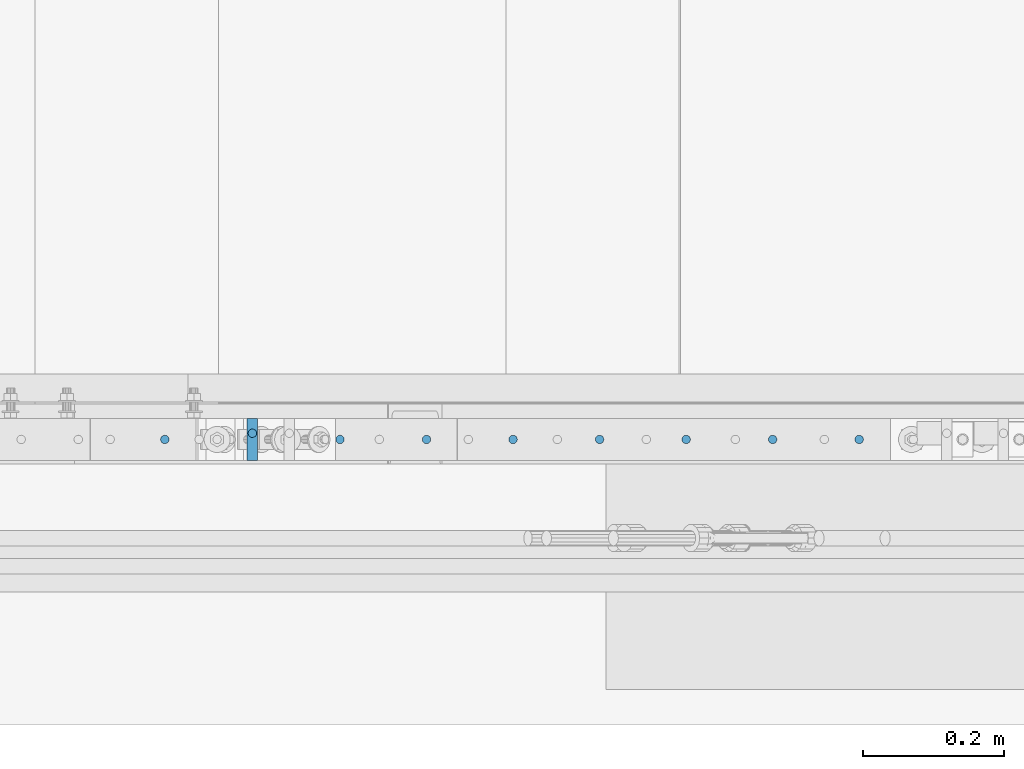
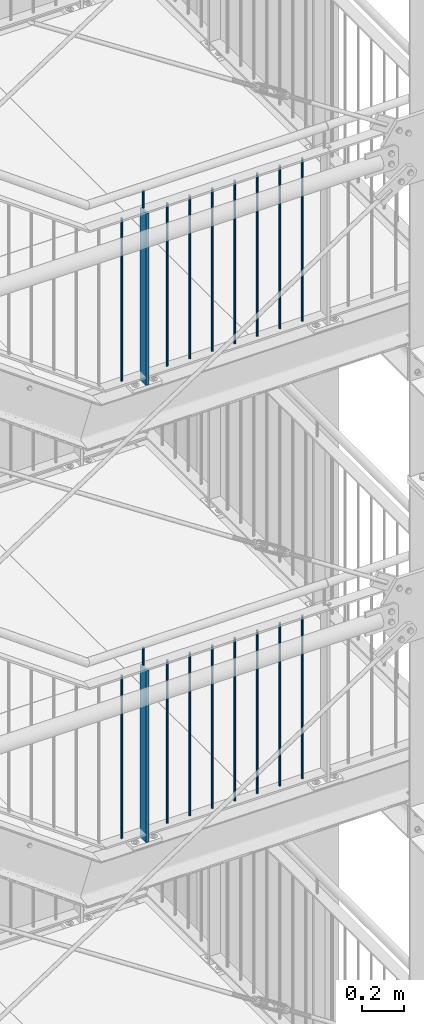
# One storey, part 84 of 825: 20 columns.
"""IFC2X3 building model written with IfcOpenShell, lengths in millimetres."""

from ifc_helpers import new_model, entity, si_unit, converted_unit, frame, origin, origin_with_axes, origin_2d, place, context, project, spatial, rectangle, circle, extrude, clip, halfspace, material, element, save


model = new_model("IFC2X3")

# Units and contexts
model_context = context("Model", 3, precision=1e-09, world=origin_with_axes())
ifc_project = project(units=[si_unit("LENGTHUNIT", "METRE", prefix="MILLI"), si_unit("AREAUNIT", "SQUARE_METRE"), si_unit("VOLUMEUNIT", "CUBIC_METRE"), converted_unit("PLANEANGLEUNIT", "DEGREE", entity("IfcPlaneAngleMeasure", 0.01745329), si_unit("PLANEANGLEUNIT", "RADIAN"), dimensions=[0, 0, 0, 0, 0, 0, 0])], contexts=[model_context])

# Site, building, storey
site_placement = place(None, origin_with_axes())
site = spatial("IfcSite", under=ifc_project, at=site_placement, Name="Cnopf'sche Kinderklinik", CompositionType="ELEMENT")
building_placement = place(site_placement, origin_with_axes())
building = spatial("IfcBuilding", under=site, at=building_placement, Name="Struktur 1", CompositionType="ELEMENT")
storey_placement = place(building_placement, origin_with_axes())
storey = spatial("IfcBuildingStorey", under=building, at=storey_placement, Name="Default Storey", CompositionType="ELEMENT", Elevation=0.0)

# Columns
ifc_material = material(Name="S235JR")
column_1_placement = place(None, frame((7364.792117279, 4526.736971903, 12305.223292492), z_axis=(0.0, 0.0, 1.0), x_axis=(-1.0, 0.0, 0.0)))
element("IfcColumn", 1, at=column_1_placement, inside=storey, material=ifc_material, Name="Railing_Post_Landing#9", ObjectType="Railing_Post_Landing#9", context=model_context, shape_type="Clipping", body=[
    clip(clip(extrude(rectangle(XDim=15.0, YDim=60.0, at=origin_2d()), origin(), (0.0, 0.0, -1.0), 1070.646584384), halfspace(frame((7364.792117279, 4526.736971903, -1019.722292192), z_axis=(0.0, 0.0, 1.0), x_axis=(-1.0, 0.0, 0.0)), True)), halfspace(frame((7364.792117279, 4526.736971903, -30.924292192), z_axis=(0.0, 0.0, -1.0), x_axis=(1.0, 0.0, 0.0)), True)),
])
column_2_placement = place(None, frame((8225.542260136, 4526.736971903, 12287.785281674), z_axis=(0.0, 0.0, 1.0), x_axis=(-1.0, 0.0, 0.0)))
element("IfcColumn", 2, at=column_2_placement, inside=storey, material=ifc_material, Name="Railing_Picket_Landing#55", ObjectType="Railing_Picket_Landing#55", context=model_context, shape_type="Clipping", body=[
    clip(clip(extrude(circle(Radius=6.0, at=origin_2d()), origin(), (0.0, 0.0, -1.0), 965.770562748), halfspace(frame((8225.542260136, 4526.736971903, -13.486281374), z_axis=(0.0, 0.0, -1.0), x_axis=(1.0, 0.0, 0.0)), True)), halfspace(frame((8225.542260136, 4526.736971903, -952.284281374), z_axis=(0.0, 0.0, 1.0), x_axis=(-1.0, 0.0, 0.0)), True)),
])
column_3_placement = place(None, frame((8102.792236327, 4526.736971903, 12287.785281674), z_axis=(0.0, 0.0, 1.0), x_axis=(-1.0, 0.0, 0.0)))
element("IfcColumn", 3, at=column_3_placement, inside=storey, material=ifc_material, Name="Railing_Picket_Landing#56", ObjectType="Railing_Picket_Landing#56", context=model_context, shape_type="Clipping", body=[
    clip(clip(extrude(circle(Radius=6.0, at=origin_2d()), origin(), (0.0, 0.0, -1.0), 965.770562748), halfspace(frame((8102.792236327, 4526.736971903, -13.486281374), z_axis=(0.0, 0.0, -1.0), x_axis=(1.0, 0.0, 0.0)), True)), halfspace(frame((8102.792236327, 4526.736971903, -952.284281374), z_axis=(0.0, 0.0, 1.0), x_axis=(-1.0, 0.0, 0.0)), True)),
])
column_4_placement = place(None, frame((7980.042212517, 4526.736971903, 12287.785281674), z_axis=(0.0, 0.0, 1.0), x_axis=(-1.0, 0.0, 0.0)))
element("IfcColumn", 4, at=column_4_placement, inside=storey, material=ifc_material, Name="Railing_Picket_Landing#57", ObjectType="Railing_Picket_Landing#57", context=model_context, shape_type="Clipping", body=[
    clip(clip(extrude(circle(Radius=6.0, at=origin_2d()), origin(), (0.0, 0.0, -1.0), 965.770562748), halfspace(frame((7980.042212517, 4526.736971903, -13.486281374), z_axis=(0.0, 0.0, -1.0), x_axis=(1.0, 0.0, 0.0)), True)), halfspace(frame((7980.042212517, 4526.736971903, -952.284281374), z_axis=(0.0, 0.0, 1.0), x_axis=(-1.0, 0.0, 0.0)), True)),
])
column_5_placement = place(None, frame((7857.292188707, 4526.736971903, 12287.785281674), z_axis=(0.0, 0.0, 1.0), x_axis=(-1.0, 0.0, 0.0)))
element("IfcColumn", 5, at=column_5_placement, inside=storey, material=ifc_material, Name="Railing_Picket_Landing#58", ObjectType="Railing_Picket_Landing#58", context=model_context, shape_type="Clipping", body=[
    clip(clip(extrude(circle(Radius=6.0, at=origin_2d()), origin(), (0.0, 0.0, -1.0), 965.770562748), halfspace(frame((7857.292188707, 4526.736971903, -13.486281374), z_axis=(0.0, 0.0, -1.0), x_axis=(1.0, 0.0, 0.0)), True)), halfspace(frame((7857.292188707, 4526.736971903, -952.284281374), z_axis=(0.0, 0.0, 1.0), x_axis=(-1.0, 0.0, 0.0)), True)),
])
column_6_placement = place(None, frame((7734.542164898, 4526.736971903, 12287.785281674), z_axis=(0.0, 0.0, 1.0), x_axis=(-1.0, 0.0, 0.0)))
element("IfcColumn", 6, at=column_6_placement, inside=storey, material=ifc_material, Name="Railing_Picket_Landing#59", ObjectType="Railing_Picket_Landing#59", context=model_context, shape_type="Clipping", body=[
    clip(clip(extrude(circle(Radius=6.0, at=origin_2d()), origin(), (0.0, 0.0, -1.0), 965.770562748), halfspace(frame((7734.542164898, 4526.736971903, -13.486281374), z_axis=(0.0, 0.0, -1.0), x_axis=(1.0, 0.0, 0.0)), True)), halfspace(frame((7734.542164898, 4526.736971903, -952.284281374), z_axis=(0.0, 0.0, 1.0), x_axis=(-1.0, 0.0, 0.0)), True)),
])
column_7_placement = place(None, frame((7611.792141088, 4526.736971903, 12287.785281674), z_axis=(0.0, 0.0, 1.0), x_axis=(-1.0, 0.0, 0.0)))
element("IfcColumn", 7, at=column_7_placement, inside=storey, material=ifc_material, Name="Railing_Picket_Landing#60", ObjectType="Railing_Picket_Landing#60", context=model_context, shape_type="Clipping", body=[
    clip(clip(extrude(circle(Radius=6.0, at=origin_2d()), origin(), (0.0, 0.0, -1.0), 965.770562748), halfspace(frame((7611.792141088, 4526.736971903, -13.486281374), z_axis=(0.0, 0.0, -1.0), x_axis=(1.0, 0.0, 0.0)), True)), halfspace(frame((7611.792141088, 4526.736971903, -952.284281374), z_axis=(0.0, 0.0, 1.0), x_axis=(-1.0, 0.0, 0.0)), True)),
])
column_8_placement = place(None, frame((7489.042117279, 4526.736971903, 12287.785281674), z_axis=(0.0, 0.0, 1.0), x_axis=(-1.0, 0.0, 0.0)))
element("IfcColumn", 8, at=column_8_placement, inside=storey, material=ifc_material, Name="Railing_Picket_Landing#61", ObjectType="Railing_Picket_Landing#61", context=model_context, shape_type="Clipping", body=[
    clip(clip(extrude(circle(Radius=6.0, at=origin_2d()), origin(), (0.0, 0.0, -1.0), 965.770562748), halfspace(frame((7489.042117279, 4526.736971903, -13.486281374), z_axis=(0.0, 0.0, -1.0), x_axis=(1.0, 0.0, 0.0)), True)), halfspace(frame((7489.042117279, 4526.736971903, -952.284281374), z_axis=(0.0, 0.0, 1.0), x_axis=(-1.0, 0.0, 0.0)), True)),
])
column_9_placement = place(None, frame((7240.542117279, 4526.736971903, 12287.785281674), z_axis=(0.0, 0.0, 1.0), x_axis=(-1.0, 0.0, 0.0)))
element("IfcColumn", 9, at=column_9_placement, inside=storey, material=ifc_material, Name="Railing_Picket_Landing#62", ObjectType="Railing_Picket_Landing#62", context=model_context, shape_type="Clipping", body=[
    clip(clip(extrude(circle(Radius=6.0, at=origin_2d()), origin(), (0.0, 0.0, -1.0), 965.770562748), halfspace(frame((7240.542117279, 4526.736971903, -13.486281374), z_axis=(0.0, 0.0, -1.0), x_axis=(1.0, 0.0, 0.0)), True)), halfspace(frame((7240.542117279, 4526.736971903, -952.284281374), z_axis=(0.0, 0.0, 1.0), x_axis=(-1.0, 0.0, 0.0)), True)),
])
column_10_placement = place(None, frame((7364.792117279, 4535.536971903, 12392.785281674), z_axis=(0.0, 0.0, 1.0), x_axis=(0.0, 1.0, 0.0)))
element("IfcColumn", 10, at=column_10_placement, inside=storey, material=ifc_material, Name="Bar#9", ObjectType="Bar#9", context=model_context, shape_type="Clipping", body=[
    clip(clip(extrude(circle(Radius=6.0, at=origin_2d()), origin(), (0.0, 0.0, -1.0), 116.970562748), halfspace(frame((-4535.536971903, 7364.792117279, -8.486281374), z_axis=(0.0, 0.0, -1.0), x_axis=(0.0, 1.0, 0.0)), True)), halfspace(frame((-4535.536971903, 7364.792117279, -108.484281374), z_axis=(0.0, 0.0, 1.0), x_axis=(0.0, -1.0, 0.0)), True)),
])
column_11_placement = place(None, frame((7364.792117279, 4526.736971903, 14936.223292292), z_axis=(0.0, 0.0, 1.0), x_axis=(-1.0, 0.0, 0.0)))
element("IfcColumn", 11, at=column_11_placement, inside=storey, material=ifc_material, Name="Railing_Post_Landing#9", ObjectType="Railing_Post_Landing#9", context=model_context, shape_type="Clipping", body=[
    clip(clip(extrude(rectangle(XDim=15.0, YDim=60.0, at=origin_2d()), origin(), (0.0, 0.0, -1.0), 1070.646584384), halfspace(frame((7364.792117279, 4526.736971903, -1019.722292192), z_axis=(0.0, 0.0, 1.0), x_axis=(-1.0, 0.0, 0.0)), True)), halfspace(frame((7364.792117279, 4526.736971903, -30.924292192), z_axis=(0.0, 0.0, -1.0), x_axis=(1.0, 0.0, 0.0)), True)),
])
column_12_placement = place(None, frame((8225.542260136, 4526.736971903, 14918.785281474), z_axis=(0.0, 0.0, 1.0), x_axis=(-1.0, 0.0, 0.0)))
element("IfcColumn", 12, at=column_12_placement, inside=storey, material=ifc_material, Name="Railing_Picket_Landing#55", ObjectType="Railing_Picket_Landing#55", context=model_context, shape_type="Clipping", body=[
    clip(clip(extrude(circle(Radius=6.0, at=origin_2d()), origin(), (0.0, 0.0, -1.0), 965.770562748), halfspace(frame((8225.542260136, 4526.736971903, -13.486281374), z_axis=(0.0, 0.0, -1.0), x_axis=(1.0, 0.0, 0.0)), True)), halfspace(frame((8225.542260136, 4526.736971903, -952.284281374), z_axis=(0.0, 0.0, 1.0), x_axis=(-1.0, 0.0, 0.0)), True)),
])
column_13_placement = place(None, frame((8102.792236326, 4526.736971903, 14918.785281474), z_axis=(0.0, 0.0, 1.0), x_axis=(-1.0, 0.0, 0.0)))
element("IfcColumn", 13, at=column_13_placement, inside=storey, material=ifc_material, Name="Railing_Picket_Landing#56", ObjectType="Railing_Picket_Landing#56", context=model_context, shape_type="Clipping", body=[
    clip(clip(extrude(circle(Radius=6.0, at=origin_2d()), origin(), (0.0, 0.0, -1.0), 965.770562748), halfspace(frame((8102.792236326, 4526.736971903, -13.486281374), z_axis=(0.0, 0.0, -1.0), x_axis=(1.0, 0.0, 0.0)), True)), halfspace(frame((8102.792236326, 4526.736971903, -952.284281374), z_axis=(0.0, 0.0, 1.0), x_axis=(-1.0, 0.0, 0.0)), True)),
])
column_14_placement = place(None, frame((7980.042212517, 4526.736971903, 14918.785281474), z_axis=(0.0, 0.0, 1.0), x_axis=(-1.0, 0.0, 0.0)))
element("IfcColumn", 14, at=column_14_placement, inside=storey, material=ifc_material, Name="Railing_Picket_Landing#57", ObjectType="Railing_Picket_Landing#57", context=model_context, shape_type="Clipping", body=[
    clip(clip(extrude(circle(Radius=6.0, at=origin_2d()), origin(), (0.0, 0.0, -1.0), 965.770562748), halfspace(frame((7980.042212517, 4526.736971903, -13.486281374), z_axis=(0.0, 0.0, -1.0), x_axis=(1.0, 0.0, 0.0)), True)), halfspace(frame((7980.042212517, 4526.736971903, -952.284281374), z_axis=(0.0, 0.0, 1.0), x_axis=(-1.0, 0.0, 0.0)), True)),
])
column_15_placement = place(None, frame((7857.292188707, 4526.736971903, 14918.785281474), z_axis=(0.0, 0.0, 1.0), x_axis=(-1.0, 0.0, 0.0)))
element("IfcColumn", 15, at=column_15_placement, inside=storey, material=ifc_material, Name="Railing_Picket_Landing#58", ObjectType="Railing_Picket_Landing#58", context=model_context, shape_type="Clipping", body=[
    clip(clip(extrude(circle(Radius=6.0, at=origin_2d()), origin(), (0.0, 0.0, -1.0), 965.770562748), halfspace(frame((7857.292188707, 4526.736971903, -13.486281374), z_axis=(0.0, 0.0, -1.0), x_axis=(1.0, 0.0, 0.0)), True)), halfspace(frame((7857.292188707, 4526.736971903, -952.284281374), z_axis=(0.0, 0.0, 1.0), x_axis=(-1.0, 0.0, 0.0)), True)),
])
column_16_placement = place(None, frame((7734.542164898, 4526.736971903, 14918.785281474), z_axis=(0.0, 0.0, 1.0), x_axis=(-1.0, 0.0, 0.0)))
element("IfcColumn", 16, at=column_16_placement, inside=storey, material=ifc_material, Name="Railing_Picket_Landing#59", ObjectType="Railing_Picket_Landing#59", context=model_context, shape_type="Clipping", body=[
    clip(clip(extrude(circle(Radius=6.0, at=origin_2d()), origin(), (0.0, 0.0, -1.0), 965.770562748), halfspace(frame((7734.542164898, 4526.736971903, -13.486281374), z_axis=(0.0, 0.0, -1.0), x_axis=(1.0, 0.0, 0.0)), True)), halfspace(frame((7734.542164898, 4526.736971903, -952.284281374), z_axis=(0.0, 0.0, 1.0), x_axis=(-1.0, 0.0, 0.0)), True)),
])
column_17_placement = place(None, frame((7611.792141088, 4526.736971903, 14918.785281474), z_axis=(0.0, 0.0, 1.0), x_axis=(-1.0, 0.0, 0.0)))
element("IfcColumn", 17, at=column_17_placement, inside=storey, material=ifc_material, Name="Railing_Picket_Landing#60", ObjectType="Railing_Picket_Landing#60", context=model_context, shape_type="Clipping", body=[
    clip(clip(extrude(circle(Radius=6.0, at=origin_2d()), origin(), (0.0, 0.0, -1.0), 965.770562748), halfspace(frame((7611.792141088, 4526.736971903, -13.486281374), z_axis=(0.0, 0.0, -1.0), x_axis=(1.0, 0.0, 0.0)), True)), halfspace(frame((7611.792141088, 4526.736971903, -952.284281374), z_axis=(0.0, 0.0, 1.0), x_axis=(-1.0, 0.0, 0.0)), True)),
])
column_18_placement = place(None, frame((7489.042117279, 4526.736971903, 14918.785281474), z_axis=(0.0, 0.0, 1.0), x_axis=(-1.0, 0.0, 0.0)))
element("IfcColumn", 18, at=column_18_placement, inside=storey, material=ifc_material, Name="Railing_Picket_Landing#61", ObjectType="Railing_Picket_Landing#61", context=model_context, shape_type="Clipping", body=[
    clip(clip(extrude(circle(Radius=6.0, at=origin_2d()), origin(), (0.0, 0.0, -1.0), 965.770562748), halfspace(frame((7489.042117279, 4526.736971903, -13.486281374), z_axis=(0.0, 0.0, -1.0), x_axis=(1.0, 0.0, 0.0)), True)), halfspace(frame((7489.042117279, 4526.736971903, -952.284281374), z_axis=(0.0, 0.0, 1.0), x_axis=(-1.0, 0.0, 0.0)), True)),
])
column_19_placement = place(None, frame((7240.542117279, 4526.736971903, 14918.785281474), z_axis=(0.0, 0.0, 1.0), x_axis=(-1.0, 0.0, 0.0)))
element("IfcColumn", 19, at=column_19_placement, inside=storey, material=ifc_material, Name="Railing_Picket_Landing#62", ObjectType="Railing_Picket_Landing#62", context=model_context, shape_type="Clipping", body=[
    clip(clip(extrude(circle(Radius=6.0, at=origin_2d()), origin(), (0.0, 0.0, -1.0), 965.770562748), halfspace(frame((7240.542117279, 4526.736971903, -13.486281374), z_axis=(0.0, 0.0, -1.0), x_axis=(1.0, 0.0, 0.0)), True)), halfspace(frame((7240.542117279, 4526.736971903, -952.284281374), z_axis=(0.0, 0.0, 1.0), x_axis=(-1.0, 0.0, 0.0)), True)),
])
column_20_placement = place(None, frame((7364.792117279, 4535.536971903, 15023.785281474), z_axis=(0.0, 0.0, 1.0), x_axis=(0.0, 1.0, 0.0)))
element("IfcColumn", 20, at=column_20_placement, inside=storey, material=ifc_material, Name="Bar#9", ObjectType="Bar#9", context=model_context, shape_type="Clipping", body=[
    clip(clip(extrude(circle(Radius=6.0, at=origin_2d()), origin(), (0.0, 0.0, -1.0), 116.970562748), halfspace(frame((-4535.536971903, 7364.792117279, -8.486281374), z_axis=(0.0, 0.0, -1.0), x_axis=(0.0, 1.0, 0.0)), True)), halfspace(frame((-4535.536971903, 7364.792117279, -108.484281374), z_axis=(0.0, 0.0, 1.0), x_axis=(0.0, -1.0, 0.0)), True)),
])

save(model, "model.ifc")
